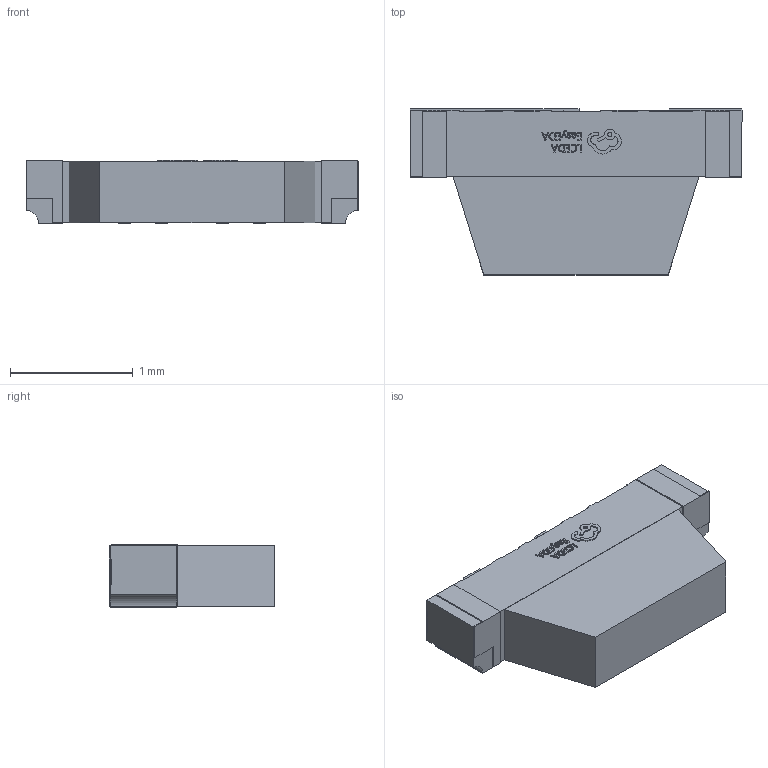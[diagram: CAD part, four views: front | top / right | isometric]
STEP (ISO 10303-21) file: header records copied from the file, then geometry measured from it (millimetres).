
FILE_DESCRIPTION (( 'STEP AP214' ), '1' );
FILE_NAME ('LED-SMD_4P-L2.7-W1.4-L.step', '2022-07-08T12:07:57', ( '' ), ( '' ), 'SwSTEP 2.0', 'SolidWorks 2020', '' );
FILE_SCHEMA (( 'AUTOMOTIVE_DESIGN' ));
Length unit declared in the file: millimetre
Products named in the file (1): LED-SMD_4P-L2.7-W1.4-L
Bounding box: 2.7 x 1.35 x 0.52 mm (x, y, z)
Volume: 1.4 mm3; surface area: 13.6 mm2
Topology: 6 solids, 6 shells, 402 faces, 1084 edges, 720 vertices
Faces by surface type: plane 284, bspline 112, cylinder 6
Entity records: 17716 total; most frequent: CARTESIAN_POINT 3964, ORIENTED_EDGE 2168, DIRECTION 1407, EDGE_CURVE 1084, VECTOR 801, LINE 801, VERTEX_POINT 720, EDGE_LOOP 428
